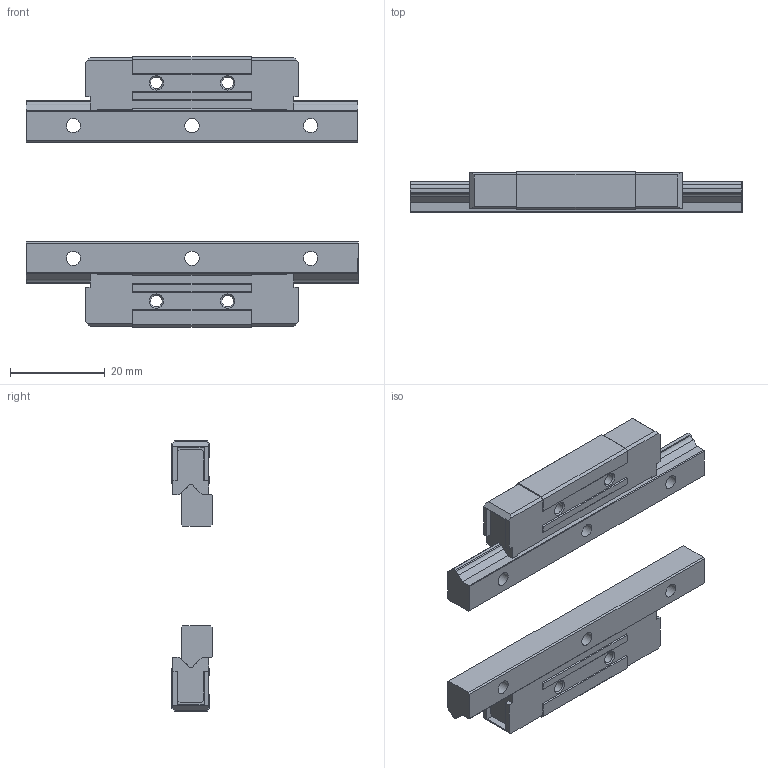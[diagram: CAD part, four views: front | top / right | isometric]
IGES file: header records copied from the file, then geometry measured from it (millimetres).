
Start section: Data from Parasolid IGES Translator 26.0.171, Copyright(c) 2006 Siemens PLM Software. All Rights Reserved.
Global section: file name: HR918-70L_G10_28_12-5_0_0_0.igs; native system: By Siemens PLM Incorporated; preprocessor: XPlus GENERIC/IGES 26.0.171; author: Noname; organization: Noname; date: 20240521.104605; units: millimetre
Bounding box: 70 x 8.5 x 57 mm (x, y, z)
Surface area: 8932.6 mm2 (no closed solid volume)
Topology: 0 solids, 0 shells, 320 faces, 1804 edges, 1772 vertices
Faces by surface type: extrusion 268, revolution 52
